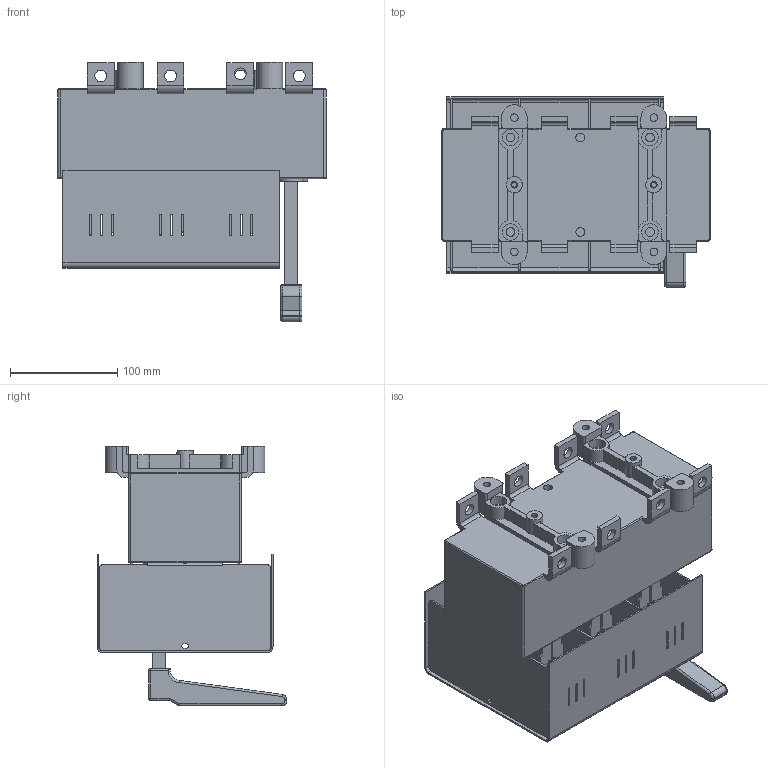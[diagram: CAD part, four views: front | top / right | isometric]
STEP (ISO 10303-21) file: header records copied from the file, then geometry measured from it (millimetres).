
FILE_DESCRIPTION(/* description */ (''),/* implementation_level */ '2;1');
FILE_NAME(/* name */ 'RAB 2 P3 NC-R.stp',/* time_stamp */ '2021-08-19T14:24:14+02:00',/* author */ (''),/* organization */ (''),/* preprocessor_version */ 'ST-DEVELOPER v18.1',/* originating_system */ 'SIEMENS PLM Software NX 1965',/* authorisation */ '');
FILE_SCHEMA (('AUTOMOTIVE_DESIGN { 1 0 10303 214 3 1 1 1 }'));
Length unit declared in the file: millimetre
Products named in the file (1): RAB 2 P3 NC-R_stp
Bounding box: 250 x 177 x 242.3 mm (x, y, z)
Volume: 2544837 mm3; surface area: 444753.5 mm2
Topology: 1 solids, 1 shells, 1050 faces, 2909 edges, 1888 vertices
Faces by surface type: plane 653, cylinder 375, torus 13, sphere 6, bspline 3
Full cylindrical faces by diameter (mm): 4.8 x2, 6.2 x2, 7 x4, 8.2 x6, 11 x8, 14 x4, 15 x2, 15.5 x4
Entity records: 33546 total; most frequent: CARTESIAN_POINT 5899, DIRECTION 5737, ORIENTED_EDGE 5734, EDGE_CURVE 2867, LINE 2077, VECTOR 2077, VERTEX_POINT 1884, AXIS2_PLACEMENT_3D 1830
